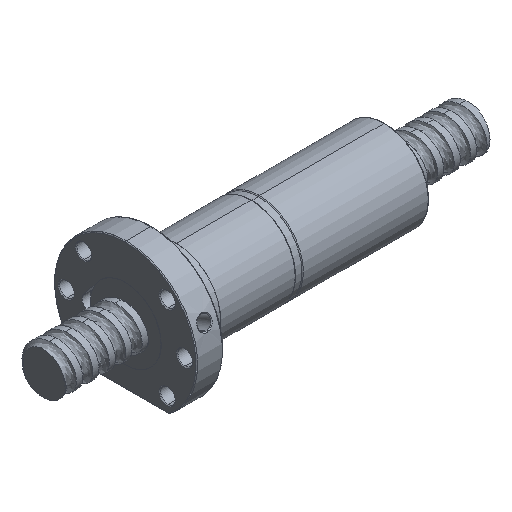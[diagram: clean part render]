
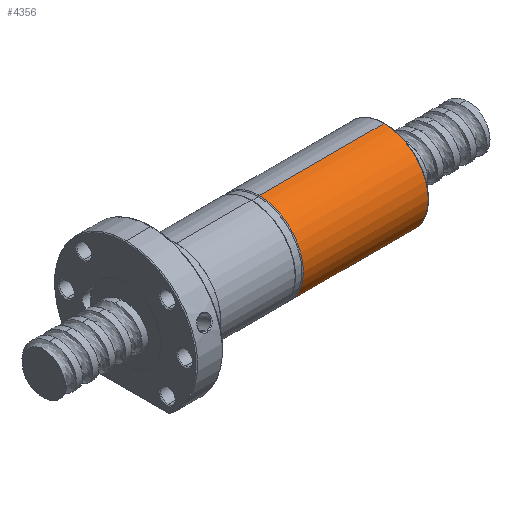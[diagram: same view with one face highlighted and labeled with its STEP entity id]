
A CAD part, isometric view. The second image highlights one B-rep face of the part: STEP entity #4356.
In plain terms, the highlighted cylindrical face has radius 26.9 mm (diameter 53.8 mm), a partial arc.
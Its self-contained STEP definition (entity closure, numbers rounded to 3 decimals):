
#3468 = VERTEX_POINT ( 'NONE', #6223 ) ;
#3469 = VERTEX_POINT ( 'NONE', #6221 ) ;
#3709 = VERTEX_POINT ( 'NONE', #7794 ) ;
#3710 = VERTEX_POINT ( 'NONE', #7792 ) ;
#3767 = EDGE_CURVE ( 'NONE', #3710, #3468, #7660, .T. ) ;
#3969 = EDGE_CURVE ( 'NONE', #3709, #3469, #9376, .T. ) ;
#4356 = ADVANCED_FACE ( 'NONE', ( #36782 ), #36781, .T. ) ;
#4359 = EDGE_LOOP ( 'NONE', ( #4361, #4363, #4367, #4369 ) ) ;
#4361 = ORIENTED_EDGE ( 'NONE', *, *, #3767, .F. ) ;
#4363 = ORIENTED_EDGE ( 'NONE', *, *, #4365, .T. ) ;
#4365 = EDGE_CURVE ( 'NONE', #3710, #3709, #36775, .T. ) ;
#4367 = ORIENTED_EDGE ( 'NONE', *, *, #3969, .T. ) ;
#4369 = ORIENTED_EDGE ( 'NONE', *, *, #4371, .T. ) ;
#4371 = EDGE_CURVE ( 'NONE', #3469, #3468, #36771, .T. ) ;
#6221 = CARTESIAN_POINT ( 'NONE',  ( -76.51, 0., 26.9 ) ) ;
#6223 = CARTESIAN_POINT ( 'NONE',  ( -76.51, 0., -26.9 ) ) ;
#7596 = VECTOR ( 'NONE', #7647, 1000. ) ;
#7598 = CARTESIAN_POINT ( 'NONE',  ( 0., 0., -26.9 ) ) ;
#7647 = DIRECTION ( 'NONE',  ( -1., 0., 0. ) ) ;
#7660 = LINE ( 'NONE', #7598, #7596 ) ;
#7792 = CARTESIAN_POINT ( 'NONE',  ( -0.5, 0., -26.9 ) ) ;
#7794 = CARTESIAN_POINT ( 'NONE',  ( -0.5, 0., 26.9 ) ) ;
#9369 = DIRECTION ( 'NONE',  ( -1., 0., 0. ) ) ;
#9370 = VECTOR ( 'NONE', #9369, 1000. ) ;
#9373 = CARTESIAN_POINT ( 'NONE',  ( 0., 0., 26.9 ) ) ;
#9376 = LINE ( 'NONE', #9373, #9370 ) ;
#36771 = CIRCLE ( 'NONE', #36875, 26.9 ) ;
#36772 = DIRECTION ( 'NONE',  ( 0., 0., -1. ) ) ;
#36773 = DIRECTION ( 'NONE',  ( -1., 0., 0. ) ) ;
#36774 = AXIS2_PLACEMENT_3D ( 'NONE', #36780, #36773, #36772 ) ;
#36775 = CIRCLE ( 'NONE', #36774, 26.9 ) ;
#36776 = DIRECTION ( 'NONE',  ( 0., 0., 1. ) ) ;
#36777 = DIRECTION ( 'NONE',  ( -1., 0., 0. ) ) ;
#36778 = CARTESIAN_POINT ( 'NONE',  ( 0., 0., 0. ) ) ;
#36779 = AXIS2_PLACEMENT_3D ( 'NONE', #36778, #36777, #36776 ) ;
#36780 = CARTESIAN_POINT ( 'NONE',  ( -0.5, 0., 0. ) ) ;
#36781 = CYLINDRICAL_SURFACE ( 'NONE', #36779, 26.9 ) ;
#36782 = FACE_OUTER_BOUND ( 'NONE', #4359, .T. ) ;
#36872 = DIRECTION ( 'NONE',  ( 0., 0., 1. ) ) ;
#36873 = DIRECTION ( 'NONE',  ( 1., 0., 0. ) ) ;
#36874 = CARTESIAN_POINT ( 'NONE',  ( -76.51, 0., 0. ) ) ;
#36875 = AXIS2_PLACEMENT_3D ( 'NONE', #36874, #36873, #36872 ) ;
